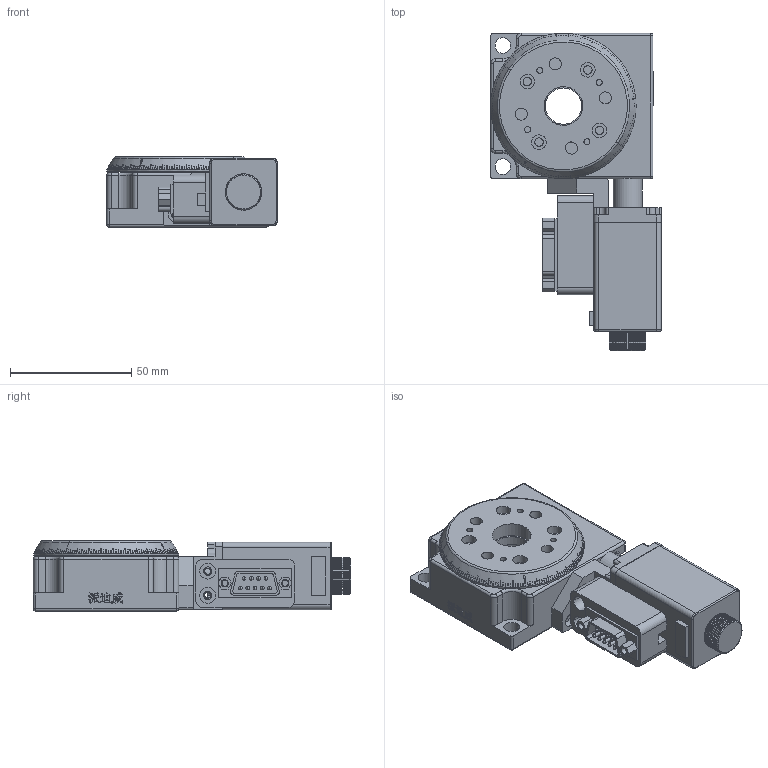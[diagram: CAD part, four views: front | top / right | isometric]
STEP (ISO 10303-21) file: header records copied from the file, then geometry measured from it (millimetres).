
FILE_DESCRIPTION (( 'STEP AP214' ), '1' );
FILE_NAME ('PX110-60K.STEP', '2023-01-01T05:11:28', ( '' ), ( '' ), 'SwSTEP 2.0', 'SolidWorks 2017', '' );
FILE_SCHEMA (( 'AUTOMOTIVE_DESIGN' ));
Length unit declared in the file: millimetre
Products named in the file (1): PX110-60K
Bounding box: 70.6 x 131 x 29 mm (x, y, z)
Surface area: 34615.6 mm2 (no closed solid volume)
Topology: 0 solids, 133 shells, 1075 faces, 4076 edges, 3029 vertices
Faces by surface type: plane 379, bspline 280, cylinder 211, cone 187, torus 12, sphere 6
Entity records: 51404 total; most frequent: CARTESIAN_POINT 22505, ORIENTED_EDGE 5780, DIRECTION 4188, EDGE_CURVE 4052, VERTEX_POINT 3029, B_SPLINE_CURVE_WITH_KNOTS 2105, AXIS2_PLACEMENT_3D 1455, EDGE_LOOP 1304
